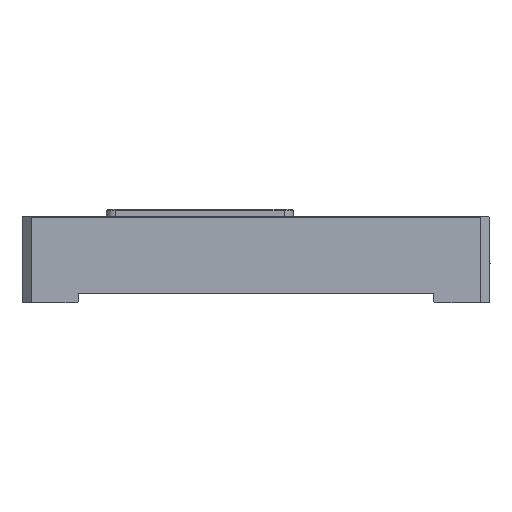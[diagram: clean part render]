
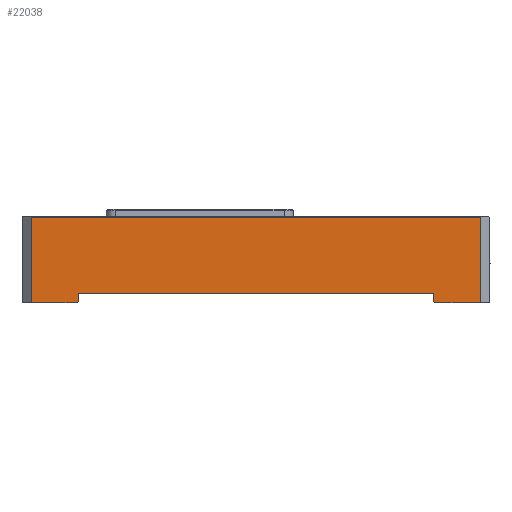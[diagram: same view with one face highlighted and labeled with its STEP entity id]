
A CAD part, left-side view. The second image highlights one B-rep face of the part: STEP entity #22038.
In plain terms, the highlighted planar face has unit normal (-1, 0, 0).
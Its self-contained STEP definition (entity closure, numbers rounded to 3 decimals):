
#2805 = CARTESIAN_POINT ( 'NONE',  ( -50., 38., -18.3 ) ) ;
#2927 = EDGE_CURVE ( 'NONE', #17502, #16333, #23345, .T. ) ;
#3353 = VECTOR ( 'NONE', #17193, 1000. ) ;
#3354 = DIRECTION ( 'NONE',  ( 0., -1., 0. ) ) ;
#3644 = CARTESIAN_POINT ( 'NONE',  ( -50., 0., -18.5 ) ) ;
#3674 = VECTOR ( 'NONE', #42299, 1000. ) ;
#3745 = CARTESIAN_POINT ( 'NONE',  ( -50., -38., -16.5 ) ) ;
#4669 = VECTOR ( 'NONE', #3354, 1000. ) ;
#5234 = PLANE ( 'NONE',  #38195 ) ;
#5704 = ORIENTED_EDGE ( 'NONE', *, *, #9655, .T. ) ;
#5847 = CARTESIAN_POINT ( 'NONE',  ( -50., -48., -0.2 ) ) ;
#6294 = ORIENTED_EDGE ( 'NONE', *, *, #2927, .T. ) ;
#6601 = CARTESIAN_POINT ( 'NONE',  ( -50., 48., -0.2 ) ) ;
#8374 = ORIENTED_EDGE ( 'NONE', *, *, #31602, .T. ) ;
#9410 = EDGE_CURVE ( 'NONE', #28351, #28434, #28440, .T. ) ;
#9655 = EDGE_CURVE ( 'NONE', #45107, #14207, #19203, .T. ) ;
#9868 = EDGE_CURVE ( 'NONE', #17088, #17502, #24111, .T. ) ;
#10003 = FACE_OUTER_BOUND ( 'NONE', #44196, .T. ) ;
#11934 = DIRECTION ( 'NONE',  ( 0., 0., 1. ) ) ;
#11939 = CARTESIAN_POINT ( 'NONE',  ( -50., -48., -18.5 ) ) ;
#12654 = DIRECTION ( 'NONE',  ( 0., 0., 1. ) ) ;
#12771 = CARTESIAN_POINT ( 'NONE',  ( -50., 38., -16.5 ) ) ;
#12831 = ORIENTED_EDGE ( 'NONE', *, *, #44614, .T. ) ;
#13377 = CARTESIAN_POINT ( 'NONE',  ( -50., 0., -0.2 ) ) ;
#13455 = CARTESIAN_POINT ( 'NONE',  ( -50., -38., -18.3 ) ) ;
#14207 = VERTEX_POINT ( 'NONE', #20985 ) ;
#14940 = VERTEX_POINT ( 'NONE', #19376 ) ;
#15612 = DIRECTION ( 'NONE',  ( -1., 0., 0. ) ) ;
#16333 = VERTEX_POINT ( 'NONE', #45010 ) ;
#17088 = VERTEX_POINT ( 'NONE', #12771 ) ;
#17131 = DIRECTION ( 'NONE',  ( 0., -0.707, 0.707 ) ) ;
#17193 = DIRECTION ( 'NONE',  ( 0., 1., 0. ) ) ;
#17502 = VERTEX_POINT ( 'NONE', #34706 ) ;
#18102 = VECTOR ( 'NONE', #27642, 1000. ) ;
#18413 = EDGE_CURVE ( 'NONE', #21281, #28351, #38542, .T. ) ;
#19203 = LINE ( 'NONE', #41504, #18102 ) ;
#19376 = CARTESIAN_POINT ( 'NONE',  ( -50., -38.2, -18.5 ) ) ;
#20126 = CARTESIAN_POINT ( 'NONE',  ( -50., 48., -18.5 ) ) ;
#20985 = CARTESIAN_POINT ( 'NONE',  ( -50., 38.2, -18.5 ) ) ;
#21063 = VECTOR ( 'NONE', #17131, 1000. ) ;
#21242 = DIRECTION ( 'NONE',  ( 0., -0.707, -0.707 ) ) ;
#21281 = VERTEX_POINT ( 'NONE', #11939 ) ;
#21633 = ORIENTED_EDGE ( 'NONE', *, *, #27603, .T. ) ;
#21740 = CARTESIAN_POINT ( 'NONE',  ( -50., 48., -18.5 ) ) ;
#22038 = ADVANCED_FACE ( 'NONE', ( #10003 ), #5234, .T. ) ;
#23345 = LINE ( 'NONE', #3745, #3674 ) ;
#23884 = VECTOR ( 'NONE', #29189, 1000. ) ;
#24111 = LINE ( 'NONE', #43347, #32240 ) ;
#25274 = CARTESIAN_POINT ( 'NONE',  ( -50., -48., -18.5 ) ) ;
#25399 = LINE ( 'NONE', #26525, #37904 ) ;
#25404 = LINE ( 'NONE', #34450, #21063 ) ;
#26525 = CARTESIAN_POINT ( 'NONE',  ( -50., 38., -18.5 ) ) ;
#27603 = EDGE_CURVE ( 'NONE', #28434, #45107, #37538, .T. ) ;
#27642 = DIRECTION ( 'NONE',  ( 0., -1., 0. ) ) ;
#28351 = VERTEX_POINT ( 'NONE', #5847 ) ;
#28434 = VERTEX_POINT ( 'NONE', #6601 ) ;
#28440 = LINE ( 'NONE', #13377, #3353 ) ;
#28982 = DIRECTION ( 'NONE',  ( 0., -1., 0. ) ) ;
#29189 = DIRECTION ( 'NONE',  ( 0., 0., 1. ) ) ;
#29708 = ORIENTED_EDGE ( 'NONE', *, *, #39459, .T. ) ;
#31398 = EDGE_CURVE ( 'NONE', #44478, #17088, #25399, .T. ) ;
#31602 = EDGE_CURVE ( 'NONE', #14940, #21281, #42322, .T. ) ;
#31651 = LINE ( 'NONE', #13455, #39819 ) ;
#31879 = ORIENTED_EDGE ( 'NONE', *, *, #9868, .T. ) ;
#32240 = VECTOR ( 'NONE', #28982, 1000. ) ;
#32952 = CARTESIAN_POINT ( 'NONE',  ( -50., 0., -18.5 ) ) ;
#34450 = CARTESIAN_POINT ( 'NONE',  ( -50., 38.2, -18.5 ) ) ;
#34706 = CARTESIAN_POINT ( 'NONE',  ( -50., -38., -16.5 ) ) ;
#35366 = VECTOR ( 'NONE', #43195, 1000. ) ;
#37538 = LINE ( 'NONE', #21740, #35366 ) ;
#37904 = VECTOR ( 'NONE', #12654, 1000. ) ;
#38195 = AXIS2_PLACEMENT_3D ( 'NONE', #32952, #15612, #11934 ) ;
#38542 = LINE ( 'NONE', #25274, #23884 ) ;
#39459 = EDGE_CURVE ( 'NONE', #14207, #44478, #25404, .T. ) ;
#39819 = VECTOR ( 'NONE', #21242, 1000. ) ;
#40345 = ORIENTED_EDGE ( 'NONE', *, *, #31398, .T. ) ;
#40664 = ORIENTED_EDGE ( 'NONE', *, *, #18413, .T. ) ;
#40890 = ORIENTED_EDGE ( 'NONE', *, *, #9410, .T. ) ;
#41504 = CARTESIAN_POINT ( 'NONE',  ( -50., 0., -18.5 ) ) ;
#42299 = DIRECTION ( 'NONE',  ( 0., 0., -1. ) ) ;
#42322 = LINE ( 'NONE', #3644, #4669 ) ;
#43195 = DIRECTION ( 'NONE',  ( 0., 0., -1. ) ) ;
#43347 = CARTESIAN_POINT ( 'NONE',  ( -50., 0., -16.5 ) ) ;
#44196 = EDGE_LOOP ( 'NONE', ( #8374, #40664, #40890, #21633, #5704, #29708, #40345, #31879, #6294, #12831 ) ) ;
#44478 = VERTEX_POINT ( 'NONE', #2805 ) ;
#44614 = EDGE_CURVE ( 'NONE', #16333, #14940, #31651, .T. ) ;
#45010 = CARTESIAN_POINT ( 'NONE',  ( -50., -38., -18.3 ) ) ;
#45107 = VERTEX_POINT ( 'NONE', #20126 ) ;
